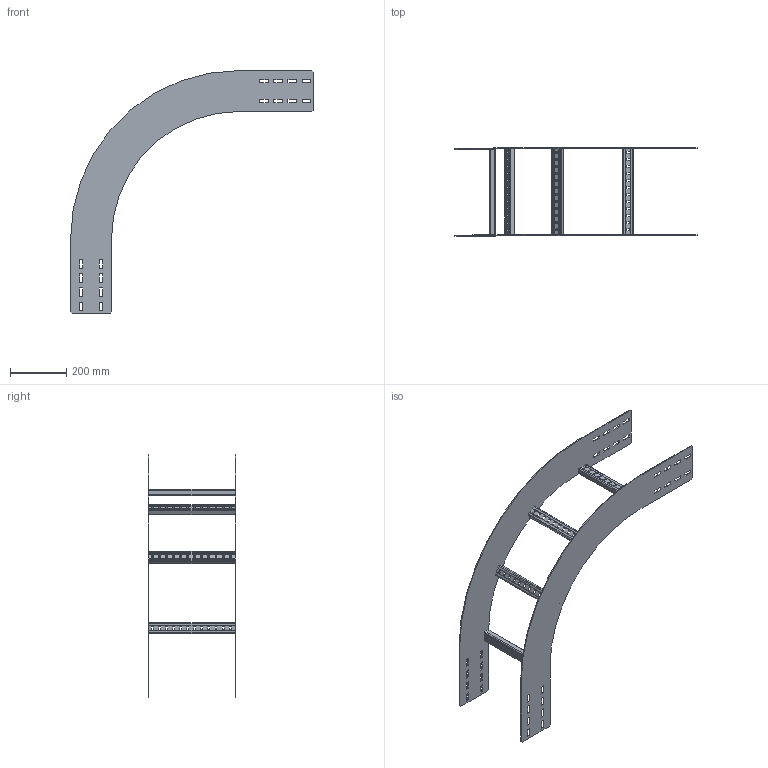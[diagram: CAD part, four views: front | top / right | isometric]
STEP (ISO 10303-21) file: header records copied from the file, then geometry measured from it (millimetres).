
FILE_DESCRIPTION(('Creo Elements/Direct Modeling STEP Export'),'2;1');
FILE_NAME('WPOR15-30-90-45.stp','2016-06-02T11:56:09',(''),(''),'PTC Creo Elements/Direct Modeling STEP processor for AP214 (Solid Model)','PTC Creo Elements/Direct Modeling 19.0C 15-Aug-2015 (C) Parametric Technology GmbH','');
FILE_SCHEMA(('AUTOMOTIVE_DESIGN { 1 0 10303 214 1 1 1 1 }'));
Length unit declared in the file: millimetre
Products named in the file (3): WPIBG150_450.1; WPHBS30; WPOR15-30-90-45
Assembly tree (6 placements, depth 2):
  WPOR15-30-90-45
    WPHBS30  x4
    WPIBG150_450.1  x2
Bounding box: 860 x 311 x 860 mm (x, y, z)
Volume: 1319821.6 mm3; surface area: 1032267.4 mm2
Topology: 6 solids, 6 shells, 508 faces, 1488 edges, 992 vertices
Faces by surface type: plane 336, cylinder 172
Entity records: 5692 total; most frequent: CARTESIAN_POINT 982, ORIENTED_EDGE 972, DIRECTION 918, EDGE_CURVE 486, VECTOR 398, LINE 398, VERTEX_POINT 324, AXIS2_PLACEMENT_3D 260
